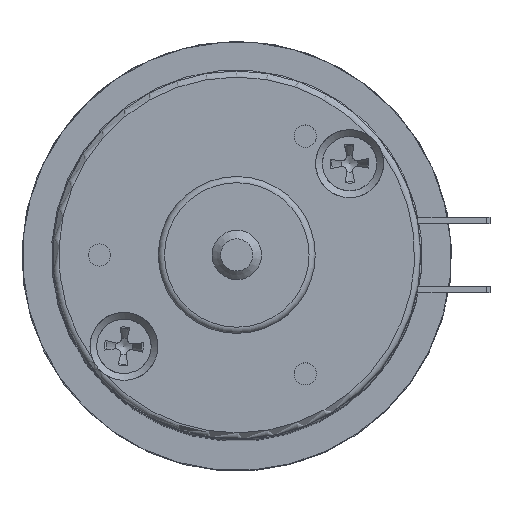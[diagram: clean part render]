
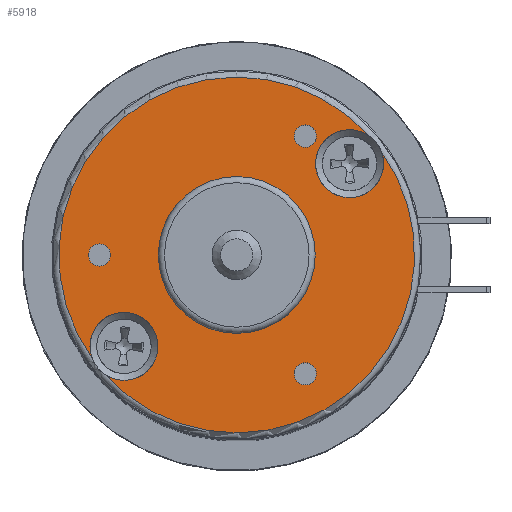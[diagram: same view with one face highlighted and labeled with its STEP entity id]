
A CAD part, top view. The second image highlights one B-rep face of the part: STEP entity #5918.
In plain terms, the highlighted planar face has unit normal (0, 0, 1).
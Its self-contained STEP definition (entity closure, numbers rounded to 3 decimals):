
#5237=CARTESIAN_POINT('',(0.,-6.35,83.));
#5238=VERTEX_POINT('',#5237);
#5239=CARTESIAN_POINT('',(0.,0.,83.));
#5240=DIRECTION('',(0.0,0.0,-1.0));
#5241=DIRECTION('',(0.0,1.0,0.0));
#5242=AXIS2_PLACEMENT_3D('',#5239,#5240,#5241);
#5243=CIRCLE('',#5242,6.35);
#5244=EDGE_CURVE('',#5238,#5238,#5243,.T.);
#5793=CARTESIAN_POINT('',(10.661,9.68,83.));
#5794=VERTEX_POINT('',#5793);
#5795=CARTESIAN_POINT('',(11.685,8.416,83.));
#5796=VERTEX_POINT('',#5795);
#5816=CARTESIAN_POINT('',(-10.661,-9.68,83.));
#5817=VERTEX_POINT('',#5816);
#5818=CARTESIAN_POINT('',(0.,0.,83.));
#5819=DIRECTION('',(0.0,0.0,-1.0));
#5820=DIRECTION('',(0.0,-1.0,0.0));
#5821=AXIS2_PLACEMENT_3D('',#5818,#5819,#5820);
#5822=CIRCLE('',#5821,14.4);
#5823=EDGE_CURVE('',#5796,#5817,#5822,.T.);
#5825=CARTESIAN_POINT('',(-11.685,-8.416,83.));
#5826=VERTEX_POINT('',#5825);
#5846=CARTESIAN_POINT('',(0.,0.,83.));
#5847=DIRECTION('',(0.0,0.0,-1.0));
#5848=DIRECTION('',(0.0,-1.0,0.0));
#5849=AXIS2_PLACEMENT_3D('',#5846,#5847,#5848);
#5850=CIRCLE('',#5849,14.4);
#5851=EDGE_CURVE('',#5826,#5794,#5850,.T.);
#5859=CARTESIAN_POINT('',(0.,0.,83.));
#5860=DIRECTION('',(0.0,0.0,-1.0));
#5861=DIRECTION('',(0.0,1.0,0.0));
#5862=AXIS2_PLACEMENT_3D('',#5859,#5860,#5861);
#5863=PLANE('',#5862);
#5864=CARTESIAN_POINT('',(9.131,7.395,83.));
#5865=DIRECTION('',(0.0,0.0,-1.0));
#5866=DIRECTION('',(0.0,-1.0,0.0));
#5867=AXIS2_PLACEMENT_3D('',#5864,#5865,#5866);
#5868=CIRCLE('',#5867,2.75);
#5869=EDGE_CURVE('',#5796,#5794,#5868,.T.);
#5870=ORIENTED_EDGE('',*,*,#5869,.T.);
#5871=ORIENTED_EDGE('',*,*,#5851,.F.);
#5872=CARTESIAN_POINT('',(-9.131,-7.395,83.));
#5873=DIRECTION('',(0.0,0.0,-1.0));
#5874=DIRECTION('',(0.0,-1.0,0.0));
#5875=AXIS2_PLACEMENT_3D('',#5872,#5873,#5874);
#5876=CIRCLE('',#5875,2.75);
#5877=EDGE_CURVE('',#5826,#5817,#5876,.T.);
#5878=ORIENTED_EDGE('',*,*,#5877,.T.);
#5879=ORIENTED_EDGE('',*,*,#5823,.F.);
#5880=EDGE_LOOP('',(#5870,#5871,#5878,#5879));
#5881=FACE_OUTER_BOUND('',#5880,.T.);
#5882=CARTESIAN_POINT('',(-11.113,-0.9,83.));
#5883=VERTEX_POINT('',#5882);
#5884=CARTESIAN_POINT('',(-11.113,0.,83.));
#5885=DIRECTION('',(0.0,0.0,-1.0));
#5886=DIRECTION('',(0.0,-1.0,0.0));
#5887=AXIS2_PLACEMENT_3D('',#5884,#5885,#5886);
#5888=CIRCLE('',#5887,0.9);
#5889=EDGE_CURVE('',#5883,#5883,#5888,.T.);
#5890=ORIENTED_EDGE('',*,*,#5889,.T.);
#5891=EDGE_LOOP('',(#5890));
#5892=FACE_BOUND('',#5891,.T.);
#5893=CARTESIAN_POINT('',(5.556,8.724,83.));
#5894=VERTEX_POINT('',#5893);
#5895=CARTESIAN_POINT('',(5.556,9.624,83.));
#5896=DIRECTION('',(0.0,0.0,-1.0));
#5897=DIRECTION('',(0.0,-1.0,0.0));
#5898=AXIS2_PLACEMENT_3D('',#5895,#5896,#5897);
#5899=CIRCLE('',#5898,0.9);
#5900=EDGE_CURVE('',#5894,#5894,#5899,.T.);
#5901=ORIENTED_EDGE('',*,*,#5900,.T.);
#5902=EDGE_LOOP('',(#5901));
#5903=FACE_BOUND('',#5902,.T.);
#5904=CARTESIAN_POINT('',(5.556,-10.524,83.));
#5905=VERTEX_POINT('',#5904);
#5906=CARTESIAN_POINT('',(5.556,-9.624,83.));
#5907=DIRECTION('',(0.0,0.0,-1.0));
#5908=DIRECTION('',(0.0,-1.0,0.0));
#5909=AXIS2_PLACEMENT_3D('',#5906,#5907,#5908);
#5910=CIRCLE('',#5909,0.9);
#5911=EDGE_CURVE('',#5905,#5905,#5910,.T.);
#5912=ORIENTED_EDGE('',*,*,#5911,.T.);
#5913=EDGE_LOOP('',(#5912));
#5914=FACE_BOUND('',#5913,.T.);
#5915=ORIENTED_EDGE('',*,*,#5244,.T.);
#5916=EDGE_LOOP('',(#5915));
#5917=FACE_BOUND('',#5916,.T.);
#5918=ADVANCED_FACE('',(#5881,#5892,#5903,#5914,#5917),#5863,.F.);
